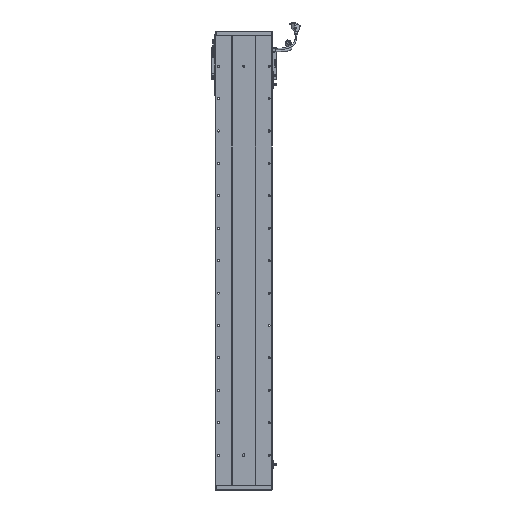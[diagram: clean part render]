
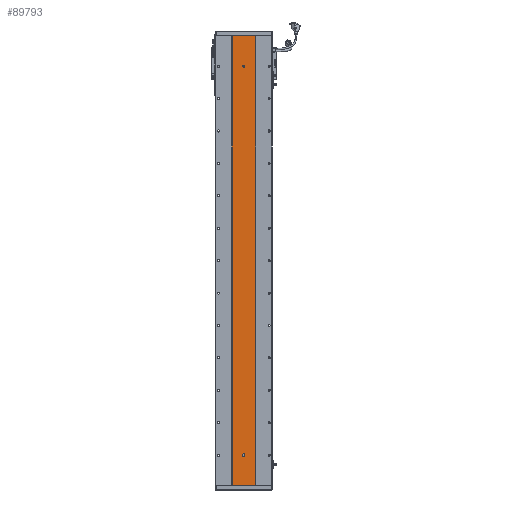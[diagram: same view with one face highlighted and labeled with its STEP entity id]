
A CAD part, front view. The second image highlights one B-rep face of the part: STEP entity #89793.
In plain terms, the highlighted planar face has unit normal (0, -1, 0).
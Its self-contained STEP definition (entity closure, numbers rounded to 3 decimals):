
#2891 = DIRECTION ( 'NONE',  ( 0., 0., -1. ) ) ;
#4910 = FACE_OUTER_BOUND ( 'NONE', #24980, .T. ) ;
#5123 = CARTESIAN_POINT ( 'NONE',  ( 3280.529, 1415.701, 1293.5 ) ) ;
#7452 = AXIS2_PLACEMENT_3D ( 'NONE', #15626, #86814, #15006 ) ;
#9409 = FACE_BOUND ( 'NONE', #88360, .T. ) ;
#9878 = VERTEX_POINT ( 'NONE', #13275 ) ;
#10570 = CARTESIAN_POINT ( 'NONE',  ( 3280.529, 1415.701, 89. ) ) ;
#11278 = LINE ( 'NONE', #75066, #85675 ) ;
#12481 = VERTEX_POINT ( 'NONE', #10570 ) ;
#13275 = CARTESIAN_POINT ( 'NONE',  ( 3316.311, 1415.701, 1387. ) ) ;
#13505 = ORIENTED_EDGE ( 'NONE', *, *, #43457, .F. ) ;
#13974 = CARTESIAN_POINT ( 'NONE',  ( 3244.748, 1415.701, 1387. ) ) ;
#14667 = CIRCLE ( 'NONE', #58019, 3. ) ;
#15006 = DIRECTION ( 'NONE',  ( 0., 0., -1. ) ) ;
#15626 = CARTESIAN_POINT ( 'NONE',  ( 3280.529, 1415.701, 92. ) ) ;
#15928 = VERTEX_POINT ( 'NONE', #56832 ) ;
#16221 = VECTOR ( 'NONE', #27597, 1000. ) ;
#18331 = AXIS2_PLACEMENT_3D ( 'NONE', #27534, #85195, #91837 ) ;
#18507 = ORIENTED_EDGE ( 'NONE', *, *, #80675, .F. ) ;
#19223 = CARTESIAN_POINT ( 'NONE',  ( 3244.748, 1415.701, 1387. ) ) ;
#20055 = CARTESIAN_POINT ( 'NONE',  ( 3244.748, 1415.701, 1387. ) ) ;
#20833 = DIRECTION ( 'NONE',  ( 0., -1., 0. ) ) ;
#23428 = CIRCLE ( 'NONE', #59602, 3. ) ;
#23791 = EDGE_CURVE ( 'NONE', #89187, #84364, #45849, .T. ) ;
#24964 = LINE ( 'NONE', #27829, #28212 ) ;
#24980 = EDGE_LOOP ( 'NONE', ( #84249, #29914, #34166, #73308 ) ) ;
#25173 = DIRECTION ( 'NONE',  ( 1., 0., 0. ) ) ;
#27264 = CARTESIAN_POINT ( 'NONE',  ( 3280.529, 1415.701, 1290.5 ) ) ;
#27534 = CARTESIAN_POINT ( 'NONE',  ( 3280.529, 1415.701, 92. ) ) ;
#27597 = DIRECTION ( 'NONE',  ( 1., 0., 0. ) ) ;
#27829 = CARTESIAN_POINT ( 'NONE',  ( 3316.311, 1415.701, 1387. ) ) ;
#28212 = VECTOR ( 'NONE', #91814, 1000. ) ;
#28692 = EDGE_CURVE ( 'NONE', #84364, #78668, #81278, .T. ) ;
#29671 = ORIENTED_EDGE ( 'NONE', *, *, #78737, .F. ) ;
#29914 = ORIENTED_EDGE ( 'NONE', *, *, #61161, .F. ) ;
#30531 = EDGE_CURVE ( 'NONE', #67893, #67384, #23428, .T. ) ;
#32002 = LINE ( 'NONE', #20055, #16221 ) ;
#33017 = CARTESIAN_POINT ( 'NONE',  ( 3244.748, 1415.701, 0. ) ) ;
#33118 = DIRECTION ( 'NONE',  ( 0., 0., -1. ) ) ;
#34010 = DIRECTION ( 'NONE',  ( 0., 0., -1. ) ) ;
#34166 = ORIENTED_EDGE ( 'NONE', *, *, #44492, .F. ) ;
#34538 = CARTESIAN_POINT ( 'NONE',  ( 3277.529, 1415.701, 95. ) ) ;
#35461 = VECTOR ( 'NONE', #80889, 1000. ) ;
#37694 = CARTESIAN_POINT ( 'NONE',  ( 3283.529, 1415.701, 95. ) ) ;
#39571 = VECTOR ( 'NONE', #25173, 1000. ) ;
#40508 = CIRCLE ( 'NONE', #18331, 3. ) ;
#42862 = DIRECTION ( 'NONE',  ( 0., 0., 1. ) ) ;
#43183 = FACE_BOUND ( 'NONE', #71337, .T. ) ;
#43457 = EDGE_CURVE ( 'NONE', #12481, #15928, #71721, .T. ) ;
#44492 = EDGE_CURVE ( 'NONE', #89187, #9878, #32002, .T. ) ;
#45849 = LINE ( 'NONE', #91397, #46933 ) ;
#46728 = CARTESIAN_POINT ( 'NONE',  ( 3283.529, 1415.701, 95. ) ) ;
#46933 = VECTOR ( 'NONE', #34010, 1000. ) ;
#47953 = AXIS2_PLACEMENT_3D ( 'NONE', #5123, #91453, #33118 ) ;
#51221 = LINE ( 'NONE', #37694, #35461 ) ;
#55843 = ORIENTED_EDGE ( 'NONE', *, *, #65750, .F. ) ;
#56832 = CARTESIAN_POINT ( 'NONE',  ( 3283.529, 1415.701, 92. ) ) ;
#58019 = AXIS2_PLACEMENT_3D ( 'NONE', #72178, #20833, #63674 ) ;
#59602 = AXIS2_PLACEMENT_3D ( 'NONE', #61799, #76042, #83882 ) ;
#61161 = EDGE_CURVE ( 'NONE', #9878, #78668, #24964, .T. ) ;
#61799 = CARTESIAN_POINT ( 'NONE',  ( 3280.529, 1415.701, 95. ) ) ;
#62464 = EDGE_CURVE ( 'NONE', #76059, #89488, #14667, .T. ) ;
#63674 = DIRECTION ( 'NONE',  ( 0., 0., -1. ) ) ;
#64955 = CARTESIAN_POINT ( 'NONE',  ( 3244.748, 1415.701, 0. ) ) ;
#65750 = EDGE_CURVE ( 'NONE', #89488, #76059, #92135, .T. ) ;
#67384 = VERTEX_POINT ( 'NONE', #34538 ) ;
#67893 = VERTEX_POINT ( 'NONE', #46728 ) ;
#71320 = EDGE_CURVE ( 'NONE', #88471, #12481, #40508, .T. ) ;
#71337 = EDGE_LOOP ( 'NONE', ( #78114, #29671, #76609, #18507, #13505 ) ) ;
#71721 = CIRCLE ( 'NONE', #7452, 3. ) ;
#72178 = CARTESIAN_POINT ( 'NONE',  ( 3280.529, 1415.701, 1293.5 ) ) ;
#73308 = ORIENTED_EDGE ( 'NONE', *, *, #23791, .T. ) ;
#75066 = CARTESIAN_POINT ( 'NONE',  ( 3277.529, 1415.701, 95. ) ) ;
#76042 = DIRECTION ( 'NONE',  ( 0., -1., 0. ) ) ;
#76059 = VERTEX_POINT ( 'NONE', #27264 ) ;
#76609 = ORIENTED_EDGE ( 'NONE', *, *, #30531, .F. ) ;
#78114 = ORIENTED_EDGE ( 'NONE', *, *, #71320, .F. ) ;
#78668 = VERTEX_POINT ( 'NONE', #80715 ) ;
#78737 = EDGE_CURVE ( 'NONE', #67384, #88471, #11278, .T. ) ;
#80142 = CARTESIAN_POINT ( 'NONE',  ( 3277.529, 1415.701, 92. ) ) ;
#80675 = EDGE_CURVE ( 'NONE', #15928, #67893, #51221, .T. ) ;
#80715 = CARTESIAN_POINT ( 'NONE',  ( 3316.311, 1415.701, 0. ) ) ;
#80889 = DIRECTION ( 'NONE',  ( 0., 0., 1. ) ) ;
#81278 = LINE ( 'NONE', #33017, #39571 ) ;
#83440 = AXIS2_PLACEMENT_3D ( 'NONE', #13974, #93339, #42862 ) ;
#83882 = DIRECTION ( 'NONE',  ( 0., 0., -1. ) ) ;
#84249 = ORIENTED_EDGE ( 'NONE', *, *, #28692, .T. ) ;
#84364 = VERTEX_POINT ( 'NONE', #64955 ) ;
#85195 = DIRECTION ( 'NONE',  ( 0., -1., 0. ) ) ;
#85459 = PLANE ( 'NONE',  #83440 ) ;
#85675 = VECTOR ( 'NONE', #2891, 1000. ) ;
#86814 = DIRECTION ( 'NONE',  ( 0., -1., 0. ) ) ;
#87516 = CARTESIAN_POINT ( 'NONE',  ( 3280.529, 1415.701, 1296.5 ) ) ;
#88360 = EDGE_LOOP ( 'NONE', ( #92924, #55843 ) ) ;
#88471 = VERTEX_POINT ( 'NONE', #80142 ) ;
#89187 = VERTEX_POINT ( 'NONE', #19223 ) ;
#89488 = VERTEX_POINT ( 'NONE', #87516 ) ;
#89793 = ADVANCED_FACE ( 'NONE', ( #43183, #9409, #4910 ), #85459, .F. ) ;
#91397 = CARTESIAN_POINT ( 'NONE',  ( 3244.748, 1415.701, 1387. ) ) ;
#91453 = DIRECTION ( 'NONE',  ( 0., -1., 0. ) ) ;
#91814 = DIRECTION ( 'NONE',  ( 0., 0., -1. ) ) ;
#91837 = DIRECTION ( 'NONE',  ( 0., 0., -1. ) ) ;
#92135 = CIRCLE ( 'NONE', #47953, 3. ) ;
#92924 = ORIENTED_EDGE ( 'NONE', *, *, #62464, .F. ) ;
#93339 = DIRECTION ( 'NONE',  ( 0., 1., 0. ) ) ;
